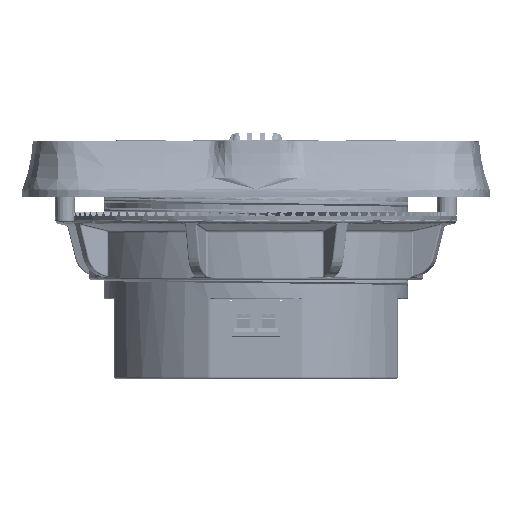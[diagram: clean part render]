
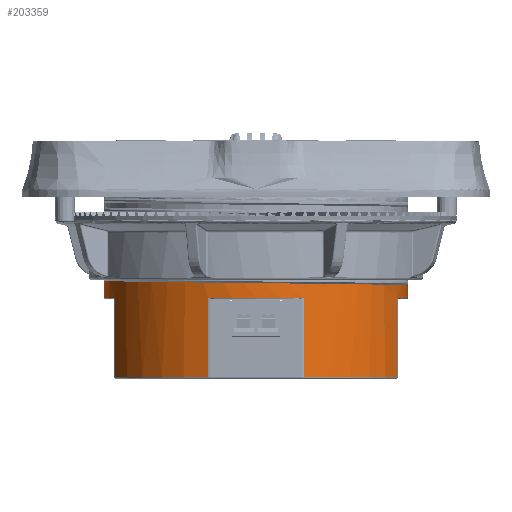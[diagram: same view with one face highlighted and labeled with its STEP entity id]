
A CAD part, front view. The second image highlights one B-rep face of the part: STEP entity #203359.
In plain terms, the highlighted cylindrical face has radius 31 mm (diameter 62 mm), a partial arc.
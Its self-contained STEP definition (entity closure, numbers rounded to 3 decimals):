
#998 = DIRECTION ( 'NONE',  ( 0., 0., -1. ) ) ;
#3629 = DIRECTION ( 'NONE',  ( 1., 0., 0. ) ) ;
#4956 = VERTEX_POINT ( 'NONE', #134290 ) ;
#5364 = DIRECTION ( 'NONE',  ( 1., 0., 0. ) ) ;
#7459 = VERTEX_POINT ( 'NONE', #72304 ) ;
#11391 = DIRECTION ( 'NONE',  ( 0., 0., -1. ) ) ;
#12021 = CYLINDRICAL_SURFACE ( 'NONE', #150511, 31. ) ;
#16830 = ORIENTED_EDGE ( 'NONE', *, *, #189059, .T. ) ;
#18043 = VERTEX_POINT ( 'NONE', #161481 ) ;
#20980 = VERTEX_POINT ( 'NONE', #184600 ) ;
#23615 = CARTESIAN_POINT ( 'NONE',  ( 31., 0., 39. ) ) ;
#24364 = LINE ( 'NONE', #99643, #73198 ) ;
#24956 = ORIENTED_EDGE ( 'NONE', *, *, #139326, .F. ) ;
#25888 = VECTOR ( 'NONE', #30583, 1000. ) ;
#27673 = EDGE_CURVE ( 'NONE', #20980, #220277, #62437, .T. ) ;
#30538 = DIRECTION ( 'NONE',  ( -1., 0., 0. ) ) ;
#30583 = DIRECTION ( 'NONE',  ( 0., 0., -1. ) ) ;
#30677 = CARTESIAN_POINT ( 'NONE',  ( 31., 0., 19. ) ) ;
#31107 = CARTESIAN_POINT ( 'NONE',  ( 0., 0., 22.5 ) ) ;
#31904 = CARTESIAN_POINT ( 'NONE',  ( -9.58, -29.483, 19.6 ) ) ;
#34311 = CARTESIAN_POINT ( 'NONE',  ( 9.58, -29.483, 19.4 ) ) ;
#38184 = LINE ( 'NONE', #115836, #162693 ) ;
#38317 = CARTESIAN_POINT ( 'NONE',  ( -28.809, -11.448, 38.7 ) ) ;
#38761 = DIRECTION ( 'NONE',  ( 0., 0., 1. ) ) ;
#42531 = EDGE_CURVE ( 'NONE', #226584, #7459, #24364, .T. ) ;
#48453 = CIRCLE ( 'NONE', #52319, 31. ) ;
#50411 = CARTESIAN_POINT ( 'NONE',  ( 19.159, -26.37, 19.3 ) ) ;
#52319 = AXIS2_PLACEMENT_3D ( 'NONE', #216383, #175653, #5364 ) ;
#56037 = LINE ( 'NONE', #227545, #152578 ) ;
#58086 = CARTESIAN_POINT ( 'NONE',  ( -9.841, -29.397, 22.5 ) ) ;
#62437 = CIRCLE ( 'NONE', #98006, 31. ) ;
#64625 = EDGE_CURVE ( 'NONE', #104603, #226584, #181264, .T. ) ;
#67496 = ORIENTED_EDGE ( 'NONE', *, *, #42531, .T. ) ;
#68121 = DIRECTION ( 'NONE',  ( -1., 0., 0. ) ) ;
#68411 = DIRECTION ( 'NONE',  ( 0., 0., -1. ) ) ;
#68759 = FACE_OUTER_BOUND ( 'NONE', #151558, .T. ) ;
#72193 = VECTOR ( 'NONE', #68411, 1000. ) ;
#72304 = CARTESIAN_POINT ( 'NONE',  ( -28.809, -11.448, 22.5 ) ) ;
#72421 = LINE ( 'NONE', #199618, #25888 ) ;
#73198 = VECTOR ( 'NONE', #116939, 1000. ) ;
#76286 = DIRECTION ( 'NONE',  ( -1., 0., 0. ) ) ;
#76478 = DIRECTION ( 'NONE',  ( 0., 0., -1. ) ) ;
#79903 = AXIS2_PLACEMENT_3D ( 'NONE', #201369, #11391, #68121 ) ;
#88663 = ORIENTED_EDGE ( 'NONE', *, *, #148247, .T. ) ;
#91041 = CARTESIAN_POINT ( 'NONE',  ( -31., -10.073, 19.9 ) ) ;
#96022 = ORIENTED_EDGE ( 'NONE', *, *, #64625, .T. ) ;
#96112 = DIRECTION ( 'NONE',  ( 0., 0., 1. ) ) ;
#98006 = AXIS2_PLACEMENT_3D ( 'NONE', #228267, #76478, #3629 ) ;
#99643 = CARTESIAN_POINT ( 'NONE',  ( -28.809, -11.448, 39. ) ) ;
#104603 = VERTEX_POINT ( 'NONE', #147184 ) ;
#107804 = CARTESIAN_POINT ( 'NONE',  ( -31., 0., 22.5 ) ) ;
#109026 = DIRECTION ( 'NONE',  ( 1., 0., 0. ) ) ;
#109575 = CARTESIAN_POINT ( 'NONE',  ( -19.159, -26.37, 19.7 ) ) ;
#109851 = VERTEX_POINT ( 'NONE', #212486 ) ;
#112967 = ORIENTED_EDGE ( 'NONE', *, *, #217545, .T. ) ;
#115836 = CARTESIAN_POINT ( 'NONE',  ( -9.841, -29.397, 39. ) ) ;
#116939 = DIRECTION ( 'NONE',  ( 0., 0., -1. ) ) ;
#117449 = CIRCLE ( 'NONE', #149004, 31. ) ;
#117896 = EDGE_CURVE ( 'NONE', #7459, #196839, #117449, .T. ) ;
#119664 =( BOUNDED_CURVE ( )  B_SPLINE_CURVE ( 2, ( #30677, #219461, #203343, #50411, #34311, #125681, #31904, #109575, #184845, #91041, #166299 ),
 .UNSPECIFIED., .F., .F. ) 
 B_SPLINE_CURVE_WITH_KNOTS ( ( 3, 2, 2, 2, 2, 3 ),
 ( 0.944, 0.956, 0.967, 0.978, 0.989, 1. ),
 .UNSPECIFIED. ) 
 CURVE ( )  GEOMETRIC_REPRESENTATION_ITEM ( )  RATIONAL_B_SPLINE_CURVE ( ( 1., 0.951, 1., 0.951, 1., 0.951, 1., 0.951, 1., 0.951, 1. ) ) 
 REPRESENTATION_ITEM ( '' )  );
#122473 = EDGE_CURVE ( 'NONE', #109851, #18043, #48453, .T. ) ;
#125529 = EDGE_CURVE ( 'NONE', #222013, #156644, #217896, .T. ) ;
#125681 = CARTESIAN_POINT ( 'NONE',  ( 0., -32.595, 19.5 ) ) ;
#129990 = AXIS2_PLACEMENT_3D ( 'NONE', #165769, #218913, #109026 ) ;
#134290 = CARTESIAN_POINT ( 'NONE',  ( 31., 0., 19. ) ) ;
#138429 = EDGE_CURVE ( 'NONE', #109851, #4956, #229725, .T. ) ;
#138837 = ORIENTED_EDGE ( 'NONE', *, *, #229466, .T. ) ;
#139326 = EDGE_CURVE ( 'NONE', #4956, #198905, #119664, .T. ) ;
#147184 = CARTESIAN_POINT ( 'NONE',  ( -9.841, -29.397, 38.7 ) ) ;
#148247 = EDGE_CURVE ( 'NONE', #220277, #222013, #199216, .T. ) ;
#149004 = AXIS2_PLACEMENT_3D ( 'NONE', #31107, #998, #76286 ) ;
#149641 = VECTOR ( 'NONE', #170538, 1000. ) ;
#150511 = AXIS2_PLACEMENT_3D ( 'NONE', #176187, #181082, #30538 ) ;
#151558 = EDGE_LOOP ( 'NONE', ( #194513, #243678, #138837, #185893, #88663, #199779, #112967, #96022, #67496, #236377, #16830, #24956 ) ) ;
#152578 = VECTOR ( 'NONE', #38761, 1000. ) ;
#154926 = CARTESIAN_POINT ( 'NONE',  ( 9.841, -29.397, 22.5 ) ) ;
#156644 = VERTEX_POINT ( 'NONE', #58086 ) ;
#156708 = CARTESIAN_POINT ( 'NONE',  ( -31., 0., 20. ) ) ;
#161481 = CARTESIAN_POINT ( 'NONE',  ( 28.809, -11.448, 22.5 ) ) ;
#162693 = VECTOR ( 'NONE', #96112, 1000. ) ;
#164625 = CARTESIAN_POINT ( 'NONE',  ( 9.841, -29.397, 39. ) ) ;
#165769 = CARTESIAN_POINT ( 'NONE',  ( 0., 0., 38.7 ) ) ;
#166299 = CARTESIAN_POINT ( 'NONE',  ( -31., 0., 20. ) ) ;
#170538 = DIRECTION ( 'NONE',  ( 0., 0., -1. ) ) ;
#175653 = DIRECTION ( 'NONE',  ( 0., 0., -1. ) ) ;
#176187 = CARTESIAN_POINT ( 'NONE',  ( 0., 0., 39. ) ) ;
#181082 = DIRECTION ( 'NONE',  ( 0., 0., -1. ) ) ;
#181264 = CIRCLE ( 'NONE', #129990, 31. ) ;
#184600 = CARTESIAN_POINT ( 'NONE',  ( 28.809, -11.448, 38.7 ) ) ;
#184845 = CARTESIAN_POINT ( 'NONE',  ( -25.08, -18.221, 19.8 ) ) ;
#185893 = ORIENTED_EDGE ( 'NONE', *, *, #27673, .T. ) ;
#189059 = EDGE_CURVE ( 'NONE', #196839, #198905, #72421, .T. ) ;
#194513 = ORIENTED_EDGE ( 'NONE', *, *, #138429, .F. ) ;
#196839 = VERTEX_POINT ( 'NONE', #107804 ) ;
#198905 = VERTEX_POINT ( 'NONE', #156708 ) ;
#199216 = LINE ( 'NONE', #164625, #72193 ) ;
#199618 = CARTESIAN_POINT ( 'NONE',  ( -31., 0., 39. ) ) ;
#199779 = ORIENTED_EDGE ( 'NONE', *, *, #125529, .T. ) ;
#201369 = CARTESIAN_POINT ( 'NONE',  ( 0., 0., 22.5 ) ) ;
#203343 = CARTESIAN_POINT ( 'NONE',  ( 25.08, -18.221, 19.2 ) ) ;
#203359 = ADVANCED_FACE ( 'NONE', ( #68759 ), #12021, .T. ) ;
#205244 = CARTESIAN_POINT ( 'NONE',  ( 9.841, -29.397, 38.7 ) ) ;
#212486 = CARTESIAN_POINT ( 'NONE',  ( 31., 0., 22.5 ) ) ;
#216383 = CARTESIAN_POINT ( 'NONE',  ( 0., 0., 22.5 ) ) ;
#217545 = EDGE_CURVE ( 'NONE', #156644, #104603, #38184, .T. ) ;
#217896 = CIRCLE ( 'NONE', #79903, 31. ) ;
#218913 = DIRECTION ( 'NONE',  ( 0., 0., -1. ) ) ;
#219461 = CARTESIAN_POINT ( 'NONE',  ( 31., -10.073, 19.1 ) ) ;
#220277 = VERTEX_POINT ( 'NONE', #205244 ) ;
#222013 = VERTEX_POINT ( 'NONE', #154926 ) ;
#226584 = VERTEX_POINT ( 'NONE', #38317 ) ;
#227545 = CARTESIAN_POINT ( 'NONE',  ( 28.809, -11.448, 39. ) ) ;
#228267 = CARTESIAN_POINT ( 'NONE',  ( 0., 0., 38.7 ) ) ;
#229466 = EDGE_CURVE ( 'NONE', #18043, #20980, #56037, .T. ) ;
#229725 = LINE ( 'NONE', #23615, #149641 ) ;
#236377 = ORIENTED_EDGE ( 'NONE', *, *, #117896, .T. ) ;
#243678 = ORIENTED_EDGE ( 'NONE', *, *, #122473, .T. ) ;
